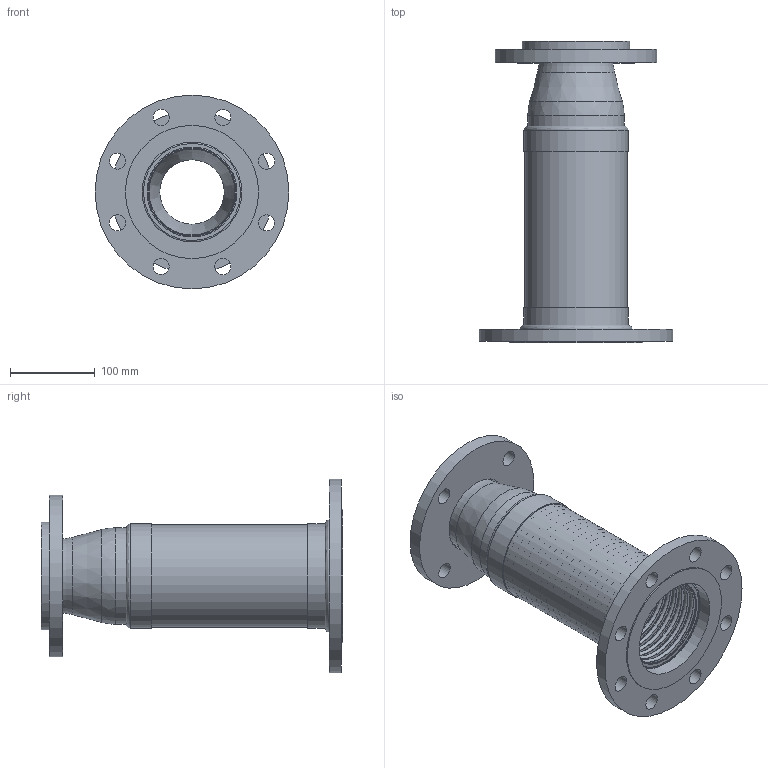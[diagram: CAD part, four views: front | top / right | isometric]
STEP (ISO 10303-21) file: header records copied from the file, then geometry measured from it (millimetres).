
FILE_DESCRIPTION((''),'2;1');
FILE_NAME('C:\2012_Work\Designs\RFFL\RFFL-4x3in.stp','2013-08-19T15:32:27',('KShiels'),(''),'Autodesk Inventor 2012','Autodesk Inventor 2012','');
FILE_SCHEMA(('AUTOMOTIVE_DESIGN { 1 0 10303 214 1 1 1 1 }'));
Length unit declared in the file: inch
Products named in the file (9): RFFL-4x3in; RFFL-4x3in_Welds; A-30995_4in_RFFL-BRAID; A-30995_4in_RFFL-BELLOWS; A-30995_4in_RFFL-BRAID-COLLAR; A-30988_4in-FIXED-FLANGE; A-30989_3in-FLOATING-FLANGE; A-30991_4x3in-REDUCER; A-30990_3in-WASHER
Assembly tree (9 placements, depth 2):
  RFFL-4x3in
    RFFL-4x3in_Welds
    A-30995_4in_RFFL-BRAID
    A-30995_4in_RFFL-BELLOWS
    A-30995_4in_RFFL-BRAID-COLLAR  x2
    A-30988_4in-FIXED-FLANGE
    A-30989_3in-FLOATING-FLANGE
    A-30991_4x3in-REDUCER
    A-30990_3in-WASHER
Bounding box: 228.6 x 355.79 x 228.6 mm (x, y, z)
Volume: 1120798.4 mm3; surface area: 853320.7 mm2
Topology: 11 solids, 11 shells, 264 faces, 445 edges, 301 vertices
Faces by surface type: plane 120, torus 103, cylinder 32, cone 5, bspline 4
Full cylindrical faces by diameter (mm): 19.05 x12, 76.2 x1, 87.173 x1, 92.075 x3, 101.6 x1, 113.64 x2, 117.475 x1, 119.888 x1, 120.701 x3, 123.082 x3, 127 x1, 157.163 x1, 190.5 x1, 228.6 x1
Entity records: 6632 total; most frequent: CARTESIAN_POINT 1741, DIRECTION 1080, ORIENTED_EDGE 562, EDGE_LOOP 541, AXIS2_PLACEMENT_3D 540, EDGE_CURVE 281, FACE_BOUND 281, VERTEX_POINT 278
